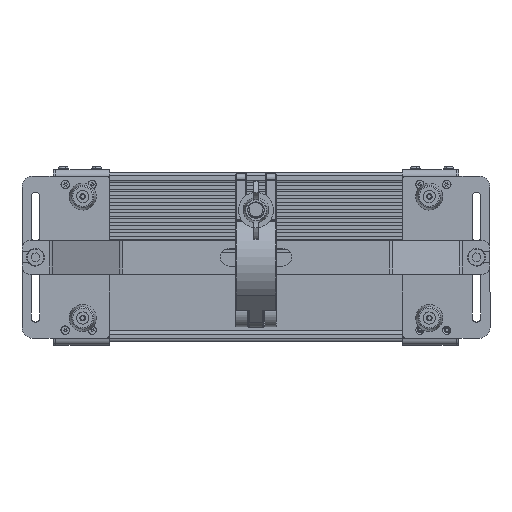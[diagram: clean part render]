
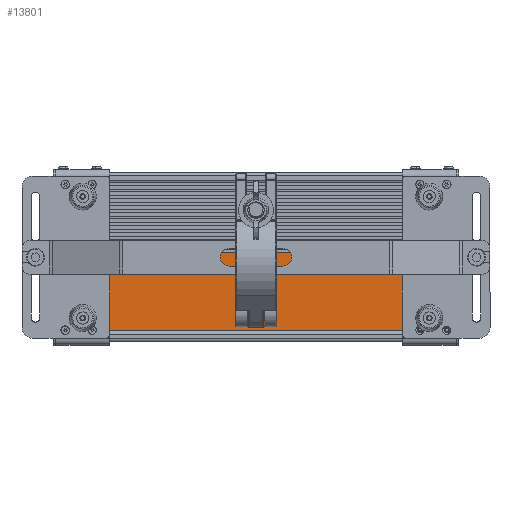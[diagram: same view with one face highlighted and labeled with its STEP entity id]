
A CAD part, top view. The second image highlights one B-rep face of the part: STEP entity #13801.
In plain terms, the highlighted planar face has unit normal (0, 0, 1) as drawn and (0, 0, -1) by its records, which use the part's own axes.
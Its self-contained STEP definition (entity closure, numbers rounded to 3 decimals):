
#1158 = DIRECTION ( 'NONE',  ( 0., 1., 0. ) ) ;
#4594 = CARTESIAN_POINT ( 'NONE',  ( -54.5, 117.6, -20.9 ) ) ;
#9148 = CARTESIAN_POINT ( 'NONE',  ( -57.5, 117.6, -20.9 ) ) ;
#13801 = ADVANCED_FACE ( 'NONE', ( #37050 ), #69796, .F. ) ;
#15272 = VECTOR ( 'NONE', #1158, 1000. ) ;
#15983 = CARTESIAN_POINT ( 'NONE',  ( -54.5, -117.6, -20.9 ) ) ;
#21979 = EDGE_CURVE ( 'NONE', #59727, #43133, #22816, .T. ) ;
#22816 = LINE ( 'NONE', #38524, #26326 ) ;
#24059 = CARTESIAN_POINT ( 'NONE',  ( 3.5, 117.6, -20.9 ) ) ;
#26326 = VECTOR ( 'NONE', #44568, 1000. ) ;
#28033 = ORIENTED_EDGE ( 'NONE', *, *, #21979, .F. ) ;
#28254 = LINE ( 'NONE', #54983, #15272 ) ;
#28975 = VERTEX_POINT ( 'NONE', #4594 ) ;
#30997 = DIRECTION ( 'NONE',  ( 0., 0., 1. ) ) ;
#34253 = ORIENTED_EDGE ( 'NONE', *, *, #64348, .T. ) ;
#35262 = CARTESIAN_POINT ( 'NONE',  ( -57.5, -117.6, -20.9 ) ) ;
#37050 = FACE_OUTER_BOUND ( 'NONE', #70230, .T. ) ;
#37573 = VECTOR ( 'NONE', #39536, 1000. ) ;
#38524 = CARTESIAN_POINT ( 'NONE',  ( 3.5, -119.836, -20.9 ) ) ;
#39353 = ORIENTED_EDGE ( 'NONE', *, *, #70055, .T. ) ;
#39536 = DIRECTION ( 'NONE',  ( -1., 0., 0. ) ) ;
#40248 = LINE ( 'NONE', #35262, #37573 ) ;
#43133 = VERTEX_POINT ( 'NONE', #24059 ) ;
#43393 = ORIENTED_EDGE ( 'NONE', *, *, #62921, .F. ) ;
#44568 = DIRECTION ( 'NONE',  ( 0., 1., 0. ) ) ;
#46938 = DIRECTION ( 'NONE',  ( -1., 0., 0. ) ) ;
#51572 = AXIS2_PLACEMENT_3D ( 'NONE', #52374, #30997, #58063 ) ;
#52374 = CARTESIAN_POINT ( 'NONE',  ( -57.5, 117.6, -20.9 ) ) ;
#54983 = CARTESIAN_POINT ( 'NONE',  ( -54.5, 117.6, -20.9 ) ) ;
#55040 = VECTOR ( 'NONE', #46938, 1000. ) ;
#57956 = LINE ( 'NONE', #9148, #55040 ) ;
#58063 = DIRECTION ( 'NONE',  ( 1., 0., 0. ) ) ;
#59727 = VERTEX_POINT ( 'NONE', #59752 ) ;
#59752 = CARTESIAN_POINT ( 'NONE',  ( 3.5, -117.6, -20.9 ) ) ;
#62921 = EDGE_CURVE ( 'NONE', #43133, #28975, #57956, .T. ) ;
#63859 = VERTEX_POINT ( 'NONE', #15983 ) ;
#64348 = EDGE_CURVE ( 'NONE', #63859, #28975, #28254, .T. ) ;
#69796 = PLANE ( 'NONE',  #51572 ) ;
#70055 = EDGE_CURVE ( 'NONE', #59727, #63859, #40248, .T. ) ;
#70230 = EDGE_LOOP ( 'NONE', ( #39353, #34253, #43393, #28033 ) ) ;
